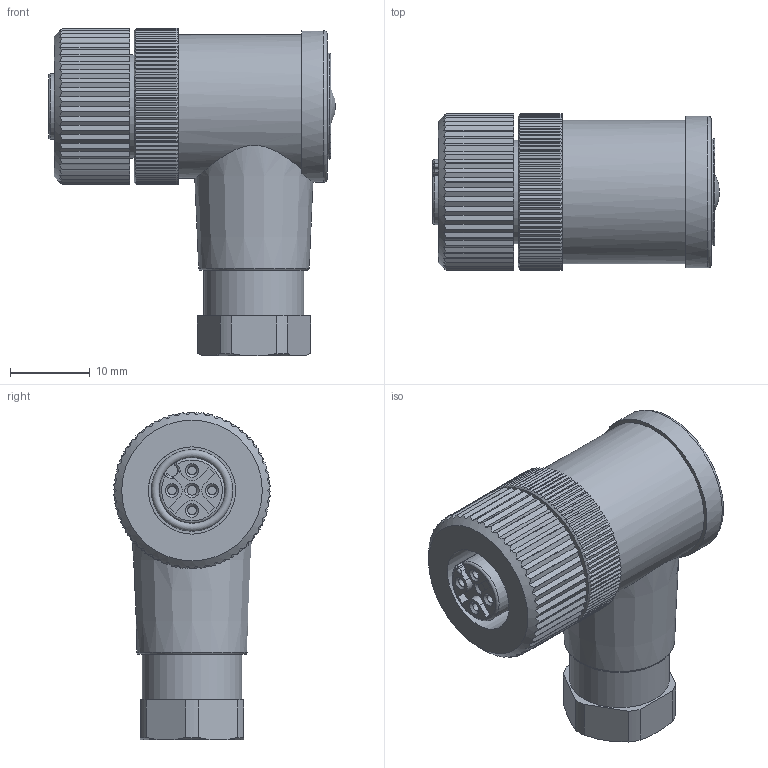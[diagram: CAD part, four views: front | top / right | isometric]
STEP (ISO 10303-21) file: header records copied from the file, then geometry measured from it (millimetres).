
FILE_DESCRIPTION(/* description */ (''),/* implementation_level */ '2;1');
FILE_NAME(/* name */ '99_0430_00_04_001_00.stp',/* time_stamp */ '2014-07-15T09:31:02+02:00',/* author */ (''),/* organization */ (''),/* preprocessor_version */ 'ST-DEVELOPER v14',/* originating_system */ 'SIEMENS PLM Software NX 8.0',/* authorisation */ '');
FILE_SCHEMA (('AP203_CONFIGURATION_CONTROLLED_3D_DESIGN_OF_MECHANICAL_PARTS_AND_ASSEMBLIES_MIM_LF { 1 0 10303 403 2 1 2}'));
Length unit declared in the file: millimetre
Products named in the file (1): cerl0E5C7906qpwv
Bounding box: 35.9 x 19.6 x 41 mm (x, y, z)
Volume: 12337.7 mm3; surface area: 4933.3 mm2
Topology: 2 solids, 2 shells, 563 faces, 1620 edges, 1076 vertices
Faces by surface type: plane 350, cylinder 185, cone 18, torus 7, sphere 3
Full cylindrical faces by diameter (mm): 1.1 x4, 1.65 x4, 2 x1, 8.2 x1, 10.917 x1, 10.95 x1, 12.5 x1, 13 x1, 18 x1, 19 x1
Entity records: 18618 total; most frequent: CARTESIAN_POINT 4248, ORIENTED_EDGE 3136, DIRECTION 2780, EDGE_CURVE 1568, VERTEX_POINT 1058, AXIS2_PLACEMENT_3D 968, LINE 844, VECTOR 844
